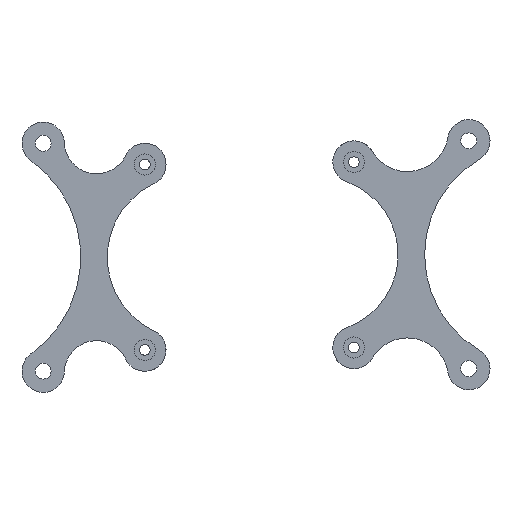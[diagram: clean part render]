
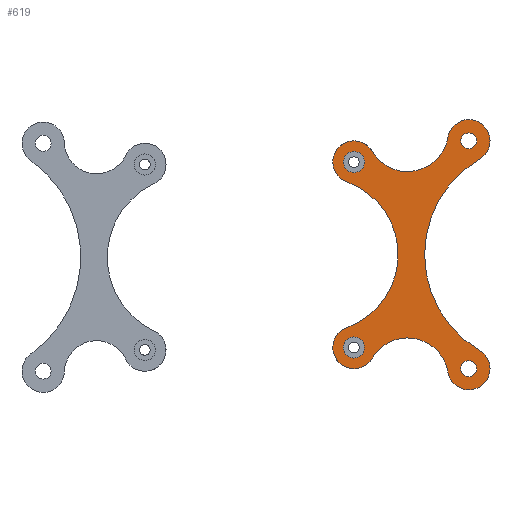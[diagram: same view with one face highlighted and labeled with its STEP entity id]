
A CAD part, front view. The second image highlights one B-rep face of the part: STEP entity #619.
In plain terms, the highlighted planar face has unit normal (0, -1, 0).
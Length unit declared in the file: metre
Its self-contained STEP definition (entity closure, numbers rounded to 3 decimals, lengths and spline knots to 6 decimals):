
#53=PLANE('',#741);
#186=ORIENTED_EDGE('',*,*,#282,.F.);
#187=ORIENTED_EDGE('',*,*,#283,.F.);
#188=ORIENTED_EDGE('',*,*,#252,.T.);
#189=ORIENTED_EDGE('',*,*,#277,.T.);
#190=ORIENTED_EDGE('',*,*,#272,.T.);
#191=ORIENTED_EDGE('',*,*,#268,.F.);
#192=ORIENTED_EDGE('',*,*,#265,.F.);
#193=ORIENTED_EDGE('',*,*,#262,.F.);
#194=ORIENTED_EDGE('',*,*,#259,.T.);
#195=ORIENTED_EDGE('',*,*,#256,.T.);
#196=ORIENTED_EDGE('',*,*,#276,.T.);
#197=ORIENTED_EDGE('',*,*,#281,.F.);
#252=EDGE_CURVE('',#320,#321,#380,.T.);
#256=EDGE_CURVE('',#324,#320,#382,.T.);
#259=EDGE_CURVE('',#326,#324,#384,.T.);
#262=EDGE_CURVE('',#326,#328,#386,.T.);
#265=EDGE_CURVE('',#328,#330,#388,.T.);
#268=EDGE_CURVE('',#330,#332,#390,.T.);
#272=EDGE_CURVE('',#335,#332,#393,.T.);
#276=EDGE_CURVE('',#338,#338,#396,.T.);
#277=EDGE_CURVE('',#321,#335,#397,.T.);
#281=EDGE_CURVE('',#341,#341,#401,.T.);
#282=EDGE_CURVE('',#342,#342,#402,.T.);
#283=EDGE_CURVE('',#343,#343,#403,.T.);
#320=VERTEX_POINT('',#1074);
#321=VERTEX_POINT('',#1075);
#324=VERTEX_POINT('',#1083);
#326=VERTEX_POINT('',#1089);
#328=VERTEX_POINT('',#1095);
#330=VERTEX_POINT('',#1101);
#332=VERTEX_POINT('',#1107);
#335=VERTEX_POINT('',#1115);
#338=VERTEX_POINT('',#1123);
#341=VERTEX_POINT('',#1133);
#342=VERTEX_POINT('',#1137);
#343=VERTEX_POINT('',#1139);
#380=CIRCLE('',#709,0.007718);
#382=CIRCLE('',#712,0.004);
#384=CIRCLE('',#715,0.020902);
#386=CIRCLE('',#718,0.004);
#388=CIRCLE('',#721,0.007718);
#390=CIRCLE('',#724,0.004);
#393=CIRCLE('',#728,0.01458);
#396=CIRCLE('',#732,0.0015);
#397=CIRCLE('',#734,0.004);
#401=CIRCLE('',#739,0.0015);
#402=CIRCLE('',#742,0.002);
#403=CIRCLE('',#743,0.002);
#465=EDGE_LOOP('',(#186));
#466=EDGE_LOOP('',(#187));
#467=EDGE_LOOP('',(#188,#189,#190,#191,#192,#193,#194,#195));
#468=EDGE_LOOP('',(#196));
#469=EDGE_LOOP('',(#197));
#541=FACE_BOUND('',#465,.T.);
#542=FACE_BOUND('',#466,.T.);
#543=FACE_BOUND('',#467,.T.);
#544=FACE_BOUND('',#468,.T.);
#545=FACE_BOUND('',#469,.T.);
#619=ADVANCED_FACE('',(#541,#542,#543,#544,#545),#53,.F.);
#709=AXIS2_PLACEMENT_3D('',#1073,#878,#879);
#712=AXIS2_PLACEMENT_3D('',#1082,#886,#887);
#715=AXIS2_PLACEMENT_3D('',#1088,#893,#894);
#718=AXIS2_PLACEMENT_3D('',#1094,#900,#901);
#721=AXIS2_PLACEMENT_3D('',#1100,#907,#908);
#724=AXIS2_PLACEMENT_3D('',#1106,#914,#915);
#728=AXIS2_PLACEMENT_3D('',#1114,#923,#924);
#732=AXIS2_PLACEMENT_3D('',#1122,#932,#933);
#734=AXIS2_PLACEMENT_3D('',#1125,#936,#937);
#739=AXIS2_PLACEMENT_3D('',#1132,#946,#947);
#741=AXIS2_PLACEMENT_3D('',#1135,#950,#951);
#742=AXIS2_PLACEMENT_3D('',#1136,#952,#953);
#743=AXIS2_PLACEMENT_3D('',#1138,#954,#955);
#878=DIRECTION('',(0.,1.,0.));
#879=DIRECTION('',(1.,0.,0.));
#886=DIRECTION('',(0.,-1.,0.));
#887=DIRECTION('',(1.,0.,0.));
#893=DIRECTION('',(0.,1.,0.));
#894=DIRECTION('',(1.,0.,0.));
#900=DIRECTION('',(0.,1.,0.));
#901=DIRECTION('',(1.,0.,0.));
#907=DIRECTION('',(0.,-1.,0.));
#908=DIRECTION('',(1.,0.,0.));
#914=DIRECTION('',(0.,1.,0.));
#915=DIRECTION('',(1.,0.,0.));
#923=DIRECTION('',(0.,1.,0.));
#924=DIRECTION('',(1.,0.,0.));
#932=DIRECTION('',(0.,1.,0.));
#933=DIRECTION('',(1.,0.,0.));
#936=DIRECTION('',(0.,-1.,0.));
#937=DIRECTION('',(1.,0.,0.));
#946=DIRECTION('',(0.,-1.,0.));
#947=DIRECTION('',(1.,0.,0.));
#950=DIRECTION('',(0.,1.,0.));
#951=DIRECTION('',(1.,0.,0.));
#952=DIRECTION('',(0.,-1.,0.));
#953=DIRECTION('',(-1.,0.,0.));
#954=DIRECTION('',(0.,-1.,0.));
#955=DIRECTION('',(-1.,0.,0.));
#1073=CARTESIAN_POINT('',(0.059179,0.,0.02389));
#1074=CARTESIAN_POINT('',(0.066793,0.,0.022629));
#1075=CARTESIAN_POINT('',(0.052517,0.,0.019994));
#1082=CARTESIAN_POINT('',(0.07074,0.,0.021975));
#1083=CARTESIAN_POINT('',(0.072758,0.,0.018521));
#1088=CARTESIAN_POINT('',(0.083304,0.,0.000475));
#1089=CARTESIAN_POINT('',(0.072758,0.,-0.017572));
#1094=CARTESIAN_POINT('',(0.07074,0.,-0.021025));
#1095=CARTESIAN_POINT('',(0.066793,0.,-0.021679));
#1100=CARTESIAN_POINT('',(0.059179,0.,-0.022941));
#1101=CARTESIAN_POINT('',(0.052517,0.,-0.019045));
#1106=CARTESIAN_POINT('',(0.049065,0.,-0.017025));
#1107=CARTESIAN_POINT('',(0.047721,0.,-0.013258));
#1114=CARTESIAN_POINT('',(0.042822,0.,0.000475));
#1115=CARTESIAN_POINT('',(0.047721,0.,0.014207));
#1122=CARTESIAN_POINT('',(0.07074,0.,0.021975));
#1123=CARTESIAN_POINT('',(0.07224,0.,0.021975));
#1125=CARTESIAN_POINT('',(0.049065,0.,0.017975));
#1132=CARTESIAN_POINT('',(0.07074,0.,-0.021025));
#1133=CARTESIAN_POINT('',(0.07224,0.,-0.021025));
#1135=CARTESIAN_POINT('',(0.061537,0.,-0.001146));
#1136=CARTESIAN_POINT('',(0.049065,0.,-0.017025));
#1137=CARTESIAN_POINT('',(0.047065,0.,-0.017025));
#1138=CARTESIAN_POINT('',(0.049065,0.,0.017975));
#1139=CARTESIAN_POINT('',(0.047065,0.,0.017975));
